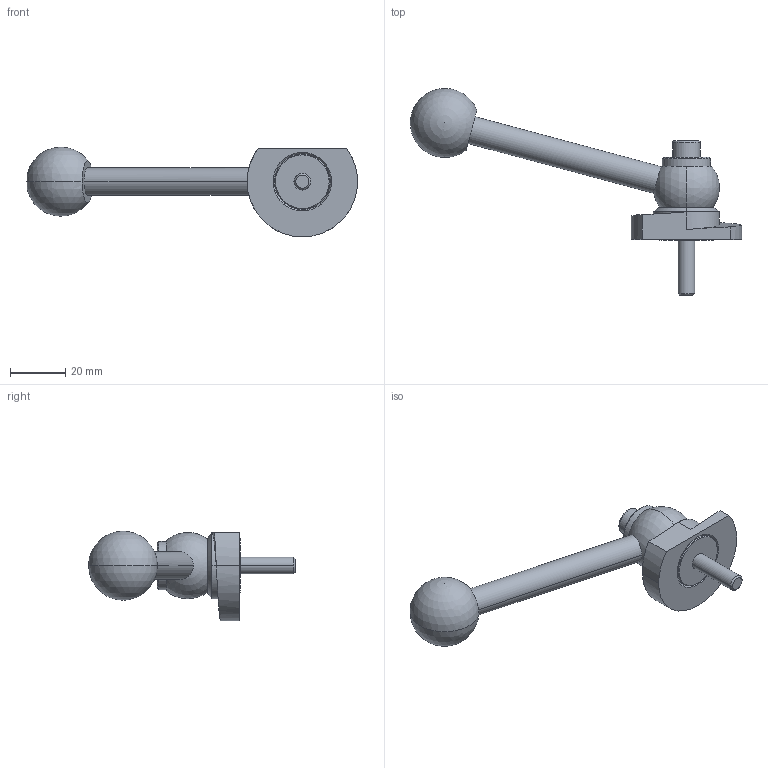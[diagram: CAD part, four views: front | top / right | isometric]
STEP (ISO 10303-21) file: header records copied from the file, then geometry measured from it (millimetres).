
FILE_DESCRIPTION (( 'STEP AP214' ), '1' );
FILE_NAME ('918.1-40-KVS-R-20.step', '2024-05-15T13:00:23', ( '' ), ( '' ), 'SwSTEP 2.0', 'SolidWorks 2022', '' );
FILE_SCHEMA (( 'AUTOMOTIVE_DESIGN' ));
Length unit declared in the file: millimetre
Products named in the file (1): 918.1-40-KVS-R-20
Bounding box: 119.95 x 74.99 x 32.5 mm (x, y, z)
Volume: 30315.7 mm3; surface area: 11213.1 mm2
Topology: 1 solids, 1 shells, 64 faces, 147 edges, 93 vertices
Faces by surface type: cylinder 22, plane 20, cone 14, sphere 4, torus 2, bspline 2
Entity records: 2045 total; most frequent: CARTESIAN_POINT 590, DIRECTION 321, ORIENTED_EDGE 274, EDGE_CURVE 137, AXIS2_PLACEMENT_3D 131, VERTEX_POINT 87, EDGE_LOOP 76, CIRCLE 68
